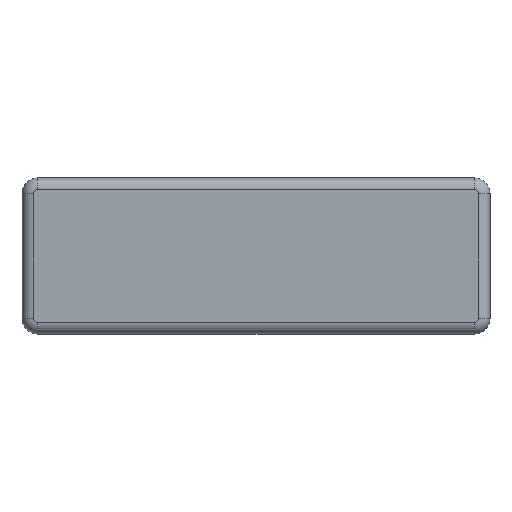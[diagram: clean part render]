
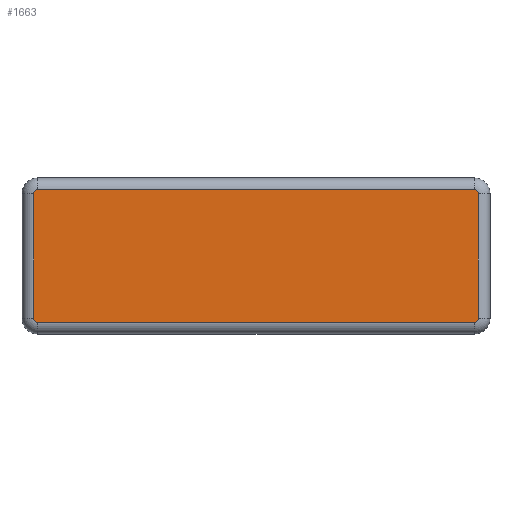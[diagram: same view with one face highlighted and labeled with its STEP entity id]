
A CAD part, top view. The second image highlights one B-rep face of the part: STEP entity #1663.
In plain terms, the highlighted planar face has unit normal (0, 0, 1).
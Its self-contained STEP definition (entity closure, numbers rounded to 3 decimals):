
#5 = DIRECTION ( 'NONE',  ( 0., -1., 0. ) ) ;
#16 = ORIENTED_EDGE ( 'NONE', *, *, #2326, .T. ) ;
#24 = CARTESIAN_POINT ( 'NONE',  ( -56., 16., 0. ) ) ;
#72 = CARTESIAN_POINT ( 'NONE',  ( 56., -16., 0. ) ) ;
#188 = VERTEX_POINT ( 'NONE', #1015 ) ;
#208 = DIRECTION ( 'NONE',  ( 1., 0., 0. ) ) ;
#272 = EDGE_CURVE ( 'NONE', #1228, #188, #1880, .T. ) ;
#285 = DIRECTION ( 'NONE',  ( 0., -1., 0. ) ) ;
#319 = VECTOR ( 'NONE', #2432, 1000. ) ;
#414 = EDGE_CURVE ( 'NONE', #832, #188, #1523, .T. ) ;
#418 = CARTESIAN_POINT ( 'NONE',  ( -57., 16., 0. ) ) ;
#434 = CIRCLE ( 'NONE', #1613, 1. ) ;
#612 = ORIENTED_EDGE ( 'NONE', *, *, #2121, .F. ) ;
#671 = EDGE_LOOP ( 'NONE', ( #1484, #1622, #1744, #696, #612, #745, #764, #16 ) ) ;
#675 = VECTOR ( 'NONE', #2272, 1000. ) ;
#693 = CARTESIAN_POINT ( 'NONE',  ( 57., -16., 0. ) ) ;
#696 = ORIENTED_EDGE ( 'NONE', *, *, #1398, .T. ) ;
#745 = ORIENTED_EDGE ( 'NONE', *, *, #2022, .T. ) ;
#759 = CARTESIAN_POINT ( 'NONE',  ( 57., 16., 0. ) ) ;
#763 = CARTESIAN_POINT ( 'NONE',  ( -56., -17., 0. ) ) ;
#764 = ORIENTED_EDGE ( 'NONE', *, *, #2307, .F. ) ;
#778 = DIRECTION ( 'NONE',  ( 0., 0., 1. ) ) ;
#789 = AXIS2_PLACEMENT_3D ( 'NONE', #2401, #1098, #2221 ) ;
#801 = CIRCLE ( 'NONE', #2207, 1. ) ;
#832 = VERTEX_POINT ( 'NONE', #693 ) ;
#912 = CARTESIAN_POINT ( 'NONE',  ( -56., 17., 0. ) ) ;
#1011 = VERTEX_POINT ( 'NONE', #418 ) ;
#1015 = CARTESIAN_POINT ( 'NONE',  ( 57., 16., 0. ) ) ;
#1029 = CARTESIAN_POINT ( 'NONE',  ( -56., 16., 0. ) ) ;
#1098 = DIRECTION ( 'NONE',  ( 0., 0., -1. ) ) ;
#1109 = DIRECTION ( 'NONE',  ( 0., -1., 0. ) ) ;
#1111 = VERTEX_POINT ( 'NONE', #1678 ) ;
#1186 = CARTESIAN_POINT ( 'NONE',  ( 56., -17., 0. ) ) ;
#1215 = DIRECTION ( 'NONE',  ( 0., 0., -1. ) ) ;
#1228 = VERTEX_POINT ( 'NONE', #2382 ) ;
#1250 = CIRCLE ( 'NONE', #1295, 1. ) ;
#1295 = AXIS2_PLACEMENT_3D ( 'NONE', #72, #1215, #1775 ) ;
#1306 = CARTESIAN_POINT ( 'NONE',  ( -56., -16., 0. ) ) ;
#1398 = EDGE_CURVE ( 'NONE', #1228, #1856, #2267, .T. ) ;
#1463 = EDGE_CURVE ( 'NONE', #832, #1677, #1250, .T. ) ;
#1484 = ORIENTED_EDGE ( 'NONE', *, *, #1463, .F. ) ;
#1523 = LINE ( 'NONE', #759, #675 ) ;
#1563 = PLANE ( 'NONE',  #2204 ) ;
#1613 = AXIS2_PLACEMENT_3D ( 'NONE', #1306, #2067, #1109 ) ;
#1622 = ORIENTED_EDGE ( 'NONE', *, *, #414, .T. ) ;
#1663 = ADVANCED_FACE ( 'NONE', ( #1749 ), #1563, .T. ) ;
#1677 = VERTEX_POINT ( 'NONE', #1186 ) ;
#1678 = CARTESIAN_POINT ( 'NONE',  ( -56., -17., 0. ) ) ;
#1726 = LINE ( 'NONE', #2308, #2009 ) ;
#1744 = ORIENTED_EDGE ( 'NONE', *, *, #272, .F. ) ;
#1749 = FACE_OUTER_BOUND ( 'NONE', #671, .T. ) ;
#1775 = DIRECTION ( 'NONE',  ( 0., -1., 0. ) ) ;
#1804 = VERTEX_POINT ( 'NONE', #2028 ) ;
#1815 = DIRECTION ( 'NONE',  ( 0., 0., -1. ) ) ;
#1856 = VERTEX_POINT ( 'NONE', #2384 ) ;
#1880 = CIRCLE ( 'NONE', #789, 1. ) ;
#1932 = LINE ( 'NONE', #763, #2363 ) ;
#2009 = VECTOR ( 'NONE', #5, 1000. ) ;
#2022 = EDGE_CURVE ( 'NONE', #1011, #1804, #1726, .T. ) ;
#2028 = CARTESIAN_POINT ( 'NONE',  ( -57., -16., 0. ) ) ;
#2067 = DIRECTION ( 'NONE',  ( 0., 0., -1. ) ) ;
#2121 = EDGE_CURVE ( 'NONE', #1011, #1856, #801, .T. ) ;
#2204 = AXIS2_PLACEMENT_3D ( 'NONE', #24, #778, #2318 ) ;
#2207 = AXIS2_PLACEMENT_3D ( 'NONE', #1029, #1815, #285 ) ;
#2221 = DIRECTION ( 'NONE',  ( 0., -1., 0. ) ) ;
#2267 = LINE ( 'NONE', #912, #319 ) ;
#2272 = DIRECTION ( 'NONE',  ( 0., 1., 0. ) ) ;
#2307 = EDGE_CURVE ( 'NONE', #1111, #1804, #434, .T. ) ;
#2308 = CARTESIAN_POINT ( 'NONE',  ( -57., 16., 0. ) ) ;
#2318 = DIRECTION ( 'NONE',  ( 0., -1., 0. ) ) ;
#2326 = EDGE_CURVE ( 'NONE', #1111, #1677, #1932, .T. ) ;
#2363 = VECTOR ( 'NONE', #208, 1000. ) ;
#2382 = CARTESIAN_POINT ( 'NONE',  ( 56., 17., 0. ) ) ;
#2384 = CARTESIAN_POINT ( 'NONE',  ( -56., 17., 0. ) ) ;
#2401 = CARTESIAN_POINT ( 'NONE',  ( 56., 16., 0. ) ) ;
#2432 = DIRECTION ( 'NONE',  ( -1., 0., 0. ) ) ;
